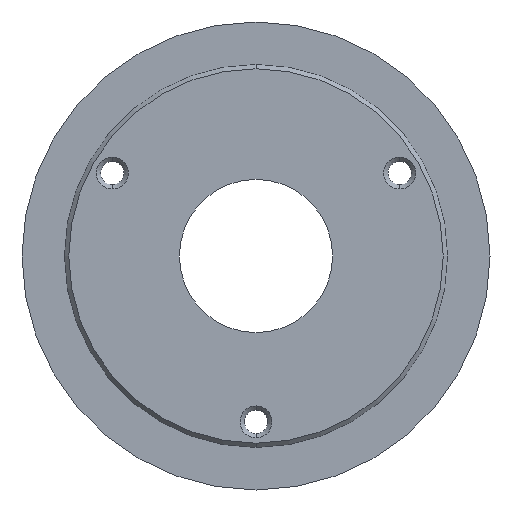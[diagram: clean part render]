
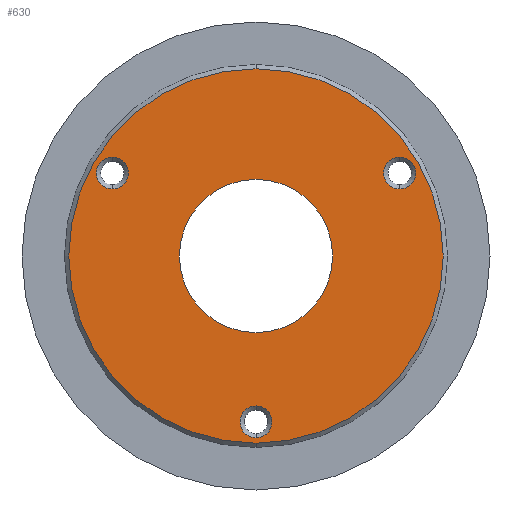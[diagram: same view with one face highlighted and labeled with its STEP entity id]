
A CAD part, front view. The second image highlights one B-rep face of the part: STEP entity #630.
In plain terms, the highlighted planar face has unit normal (0, -1, 0).
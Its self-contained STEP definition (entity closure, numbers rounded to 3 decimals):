
#4 = ORIENTED_EDGE ( 'NONE', *, *, #1025, .F. ) ;
#5 = CIRCLE ( 'NONE', #123, 44. ) ;
#7 = EDGE_LOOP ( 'NONE', ( #160, #733 ) ) ;
#11 = CARTESIAN_POINT ( 'NONE',  ( 0., 0., 0. ) ) ;
#13 = DIRECTION ( 'NONE',  ( 0., -1., 0. ) ) ;
#16 = CARTESIAN_POINT ( 'NONE',  ( 0., 0., -35.25 ) ) ;
#24 = DIRECTION ( 'NONE',  ( 0., 0., 1. ) ) ;
#27 = CARTESIAN_POINT ( 'NONE',  ( 0., 0., -18. ) ) ;
#31 = CIRCLE ( 'NONE', #536, 3.75 ) ;
#43 = CARTESIAN_POINT ( 'NONE',  ( 33.775, 0., 19.5 ) ) ;
#51 = AXIS2_PLACEMENT_3D ( 'NONE', #446, #1010, #658 ) ;
#73 = CARTESIAN_POINT ( 'NONE',  ( -18., 0., 0. ) ) ;
#77 = VERTEX_POINT ( 'NONE', #653 ) ;
#83 = AXIS2_PLACEMENT_3D ( 'NONE', #699, #710, #765 ) ;
#84 = AXIS2_PLACEMENT_3D ( 'NONE', #900, #903, #920 ) ;
#89 = CARTESIAN_POINT ( 'NONE',  ( -33.775, 0., 19.5 ) ) ;
#96 = ORIENTED_EDGE ( 'NONE', *, *, #779, .T. ) ;
#100 = EDGE_LOOP ( 'NONE', ( #919, #1145 ) ) ;
#114 = CARTESIAN_POINT ( 'NONE',  ( 33.775, 0., 15.75 ) ) ;
#115 = CARTESIAN_POINT ( 'NONE',  ( 0., 0., -42.75 ) ) ;
#123 = AXIS2_PLACEMENT_3D ( 'NONE', #978, #870, #24 ) ;
#134 = CARTESIAN_POINT ( 'NONE',  ( 33.775, 0., 23.25 ) ) ;
#157 = CARTESIAN_POINT ( 'NONE',  ( -33.775, 0., 23.25 ) ) ;
#160 = ORIENTED_EDGE ( 'NONE', *, *, #1183, .T. ) ;
#174 = AXIS2_PLACEMENT_3D ( 'NONE', #11, #13, #583 ) ;
#195 = FACE_BOUND ( 'NONE', #396, .T. ) ;
#197 = AXIS2_PLACEMENT_3D ( 'NONE', #868, #793, #696 ) ;
#234 = DIRECTION ( 'NONE',  ( 0., 0., 1. ) ) ;
#237 = CIRCLE ( 'NONE', #51, 18. ) ;
#256 = EDGE_CURVE ( 'NONE', #519, #1184, #1074, .T. ) ;
#275 = AXIS2_PLACEMENT_3D ( 'NONE', #43, #1043, #980 ) ;
#300 = DIRECTION ( 'NONE',  ( 0., 0., 1. ) ) ;
#387 = EDGE_CURVE ( 'NONE', #1184, #519, #721, .T. ) ;
#396 = EDGE_LOOP ( 'NONE', ( #442, #96 ) ) ;
#398 = AXIS2_PLACEMENT_3D ( 'NONE', #89, #631, #555 ) ;
#407 = VERTEX_POINT ( 'NONE', #115 ) ;
#413 = FACE_BOUND ( 'NONE', #450, .T. ) ;
#428 = VERTEX_POINT ( 'NONE', #16 ) ;
#432 = DIRECTION ( 'NONE',  ( 0., 1., 0. ) ) ;
#439 = CARTESIAN_POINT ( 'NONE',  ( -33.775, 0., 15.75 ) ) ;
#440 = FACE_OUTER_BOUND ( 'NONE', #7, .T. ) ;
#442 = ORIENTED_EDGE ( 'NONE', *, *, #556, .T. ) ;
#446 = CARTESIAN_POINT ( 'NONE',  ( 0., 0., 0. ) ) ;
#450 = EDGE_LOOP ( 'NONE', ( #1100, #4 ) ) ;
#519 = VERTEX_POINT ( 'NONE', #134 ) ;
#530 = CIRCLE ( 'NONE', #1133, 44. ) ;
#535 = PLANE ( 'NONE',  #705 ) ;
#536 = AXIS2_PLACEMENT_3D ( 'NONE', #864, #722, #1064 ) ;
#555 = DIRECTION ( 'NONE',  ( 0., 0., 1. ) ) ;
#556 = EDGE_CURVE ( 'NONE', #407, #428, #1057, .T. ) ;
#574 = EDGE_LOOP ( 'NONE', ( #838, #904 ) ) ;
#583 = DIRECTION ( 'NONE',  ( 0., 0., -1. ) ) ;
#596 = DIRECTION ( 'NONE',  ( 0., -1., 0. ) ) ;
#605 = VERTEX_POINT ( 'NONE', #27 ) ;
#613 = CARTESIAN_POINT ( 'NONE',  ( 0., 0., 18. ) ) ;
#626 = EDGE_CURVE ( 'NONE', #652, #834, #916, .T. ) ;
#630 = ADVANCED_FACE ( 'NONE', ( #1149, #1181, #195, #440, #413 ), #535, .F. ) ;
#631 = DIRECTION ( 'NONE',  ( 0., 1., 0. ) ) ;
#652 = VERTEX_POINT ( 'NONE', #157 ) ;
#653 = CARTESIAN_POINT ( 'NONE',  ( 0., 0., 44. ) ) ;
#658 = DIRECTION ( 'NONE',  ( 0., 0., -1. ) ) ;
#682 = CARTESIAN_POINT ( 'NONE',  ( 0., 0., 0. ) ) ;
#696 = DIRECTION ( 'NONE',  ( 0., 0., 1. ) ) ;
#699 = CARTESIAN_POINT ( 'NONE',  ( 33.775, 0., 19.5 ) ) ;
#705 = AXIS2_PLACEMENT_3D ( 'NONE', #73, #432, #234 ) ;
#710 = DIRECTION ( 'NONE',  ( 0., 1., 0. ) ) ;
#721 = CIRCLE ( 'NONE', #275, 3.75 ) ;
#722 = DIRECTION ( 'NONE',  ( 0., 1., 0. ) ) ;
#733 = ORIENTED_EDGE ( 'NONE', *, *, #1119, .T. ) ;
#745 = VERTEX_POINT ( 'NONE', #613 ) ;
#765 = DIRECTION ( 'NONE',  ( 0., 0., 1. ) ) ;
#779 = EDGE_CURVE ( 'NONE', #428, #407, #1179, .T. ) ;
#793 = DIRECTION ( 'NONE',  ( 0., 1., 0. ) ) ;
#834 = VERTEX_POINT ( 'NONE', #439 ) ;
#838 = ORIENTED_EDGE ( 'NONE', *, *, #1194, .T. ) ;
#859 = VERTEX_POINT ( 'NONE', #1198 ) ;
#864 = CARTESIAN_POINT ( 'NONE',  ( -33.775, 0., 19.5 ) ) ;
#866 = CIRCLE ( 'NONE', #174, 18. ) ;
#868 = CARTESIAN_POINT ( 'NONE',  ( 0., 0., -39. ) ) ;
#870 = DIRECTION ( 'NONE',  ( 0., -1., 0. ) ) ;
#900 = CARTESIAN_POINT ( 'NONE',  ( 0., 0., -39. ) ) ;
#903 = DIRECTION ( 'NONE',  ( 0., 1., 0. ) ) ;
#904 = ORIENTED_EDGE ( 'NONE', *, *, #626, .T. ) ;
#916 = CIRCLE ( 'NONE', #398, 3.75 ) ;
#919 = ORIENTED_EDGE ( 'NONE', *, *, #387, .T. ) ;
#920 = DIRECTION ( 'NONE',  ( 0., 0., 1. ) ) ;
#978 = CARTESIAN_POINT ( 'NONE',  ( 0., 0., 0. ) ) ;
#980 = DIRECTION ( 'NONE',  ( 0., 0., 1. ) ) ;
#1010 = DIRECTION ( 'NONE',  ( 0., -1., 0. ) ) ;
#1025 = EDGE_CURVE ( 'NONE', #745, #605, #237, .T. ) ;
#1030 = EDGE_CURVE ( 'NONE', #605, #745, #866, .T. ) ;
#1043 = DIRECTION ( 'NONE',  ( 0., 1., 0. ) ) ;
#1057 = CIRCLE ( 'NONE', #197, 3.75 ) ;
#1064 = DIRECTION ( 'NONE',  ( 0., 0., 1. ) ) ;
#1074 = CIRCLE ( 'NONE', #83, 3.75 ) ;
#1100 = ORIENTED_EDGE ( 'NONE', *, *, #1030, .F. ) ;
#1119 = EDGE_CURVE ( 'NONE', #859, #77, #530, .T. ) ;
#1133 = AXIS2_PLACEMENT_3D ( 'NONE', #682, #596, #300 ) ;
#1145 = ORIENTED_EDGE ( 'NONE', *, *, #256, .T. ) ;
#1149 = FACE_BOUND ( 'NONE', #574, .T. ) ;
#1179 = CIRCLE ( 'NONE', #84, 3.75 ) ;
#1181 = FACE_BOUND ( 'NONE', #100, .T. ) ;
#1183 = EDGE_CURVE ( 'NONE', #77, #859, #5, .T. ) ;
#1184 = VERTEX_POINT ( 'NONE', #114 ) ;
#1194 = EDGE_CURVE ( 'NONE', #834, #652, #31, .T. ) ;
#1198 = CARTESIAN_POINT ( 'NONE',  ( 0., 0., -44. ) ) ;
